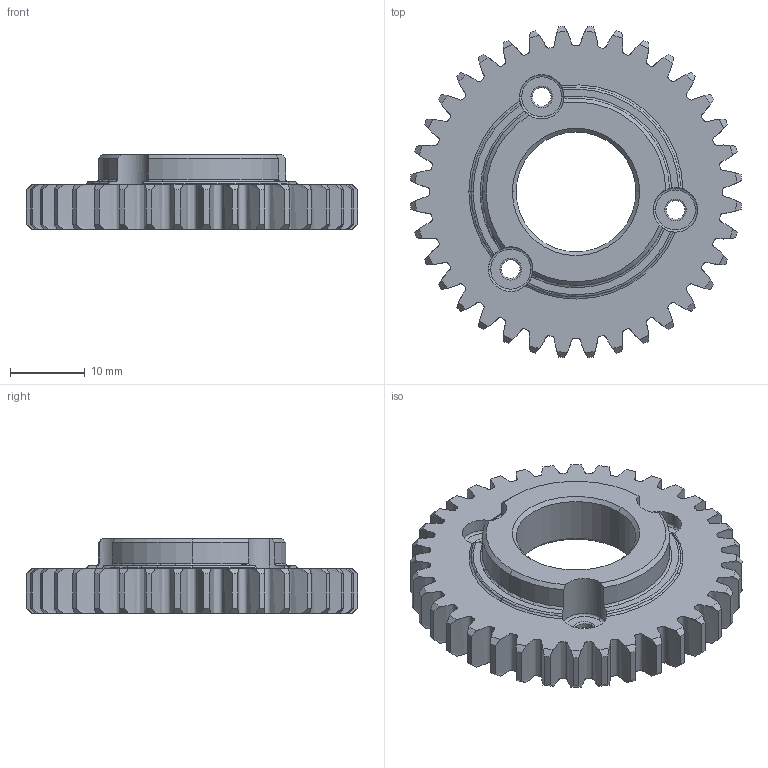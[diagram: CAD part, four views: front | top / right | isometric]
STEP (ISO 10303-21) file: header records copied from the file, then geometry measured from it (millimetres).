
FILE_DESCRIPTION (( 'STEP AP214' ), '1' );
FILE_NAME ('Öåíòðàëüíûé ÄèôÒ - Âåíåö 36.STEP', '2019-03-23T07:30:12', ( '' ), ( '' ), 'SwSTEP 2.0', 'SolidWorks 2018', '' );
FILE_SCHEMA (( 'AUTOMOTIVE_DESIGN' ));
Length unit declared in the file: millimetre
Products named in the file (1): Öåíòðàëüíûé ÄèôÒ - Âåíåö 36
Bounding box: 44.23 x 44.23 x 10 mm (x, y, z)
Volume: 5411.1 mm3; surface area: 4805.2 mm2
Topology: 1 solids, 1 shells, 215 faces, 605 edges, 394 vertices
Faces by surface type: cone 84, cylinder 56, bspline 36, torus 29, plane 10
Entity records: 15688 total; most frequent: CARTESIAN_POINT 10425, ORIENTED_EDGE 1210, DIRECTION 986, EDGE_CURVE 605, AXIS2_PLACEMENT_3D 441, VERTEX_POINT 394, CIRCLE 261, B_SPLINE_CURVE_WITH_KNOTS 240
